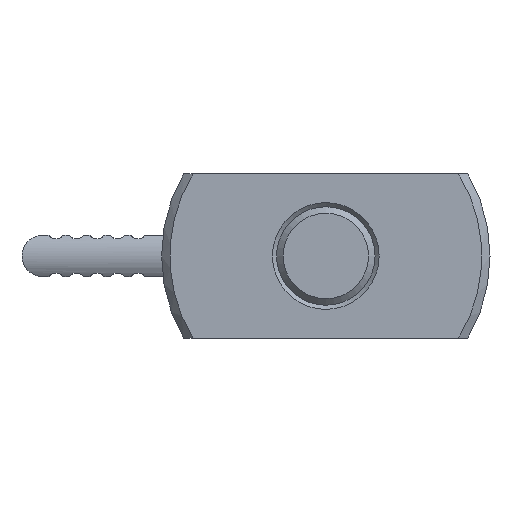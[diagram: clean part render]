
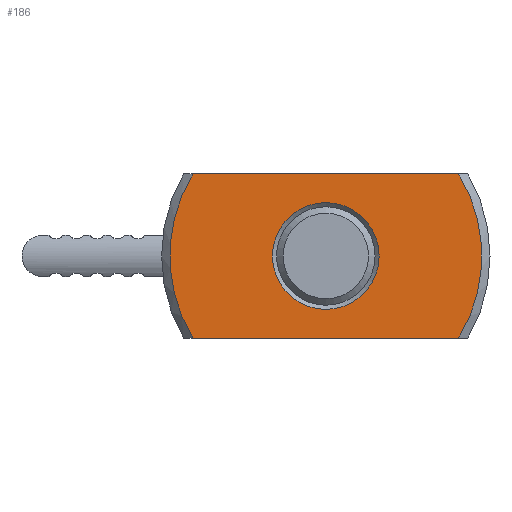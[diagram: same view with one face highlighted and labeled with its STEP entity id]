
A CAD part, front view. The second image highlights one B-rep face of the part: STEP entity #186.
In plain terms, the highlighted planar face has unit normal (0, -1, 0).
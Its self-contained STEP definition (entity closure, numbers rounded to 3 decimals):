
#186 = ADVANCED_FACE( '', ( #311, #312 ), #313, .F. );
#311 = FACE_BOUND( '', #550, .T. );
#312 = FACE_OUTER_BOUND( '', #551, .T. );
#313 = PLANE( '', #552 );
#550 = EDGE_LOOP( '', ( #893 ) );
#551 = EDGE_LOOP( '', ( #894, #895, #896, #897 ) );
#552 = AXIS2_PLACEMENT_3D( '', #898, #899, #900 );
#893 = ORIENTED_EDGE( '', *, *, #1583, .F. );
#894 = ORIENTED_EDGE( '', *, *, #1573, .T. );
#895 = ORIENTED_EDGE( '', *, *, #1569, .T. );
#896 = ORIENTED_EDGE( '', *, *, #1562, .T. );
#897 = ORIENTED_EDGE( '', *, *, #1584, .T. );
#898 = CARTESIAN_POINT( '', ( 19., 0., 0. ) );
#899 = DIRECTION( '', ( 0., 1., 0. ) );
#900 = DIRECTION( '', ( 0., 0., 1. ) );
#1562 = EDGE_CURVE( '', #1825, #1826, #1827, .T. );
#1569 = EDGE_CURVE( '', #1838, #1825, #1839, .T. );
#1573 = EDGE_CURVE( '', #1845, #1838, #1846, .T. );
#1583 = EDGE_CURVE( '', #1859, #1859, #1860, .T. );
#1584 = EDGE_CURVE( '', #1826, #1845, #1861, .T. );
#1825 = VERTEX_POINT( '', #2453 );
#1826 = VERTEX_POINT( '', #2454 );
#1827 = CIRCLE( '', #2455, 19. );
#1838 = VERTEX_POINT( '', #2473 );
#1839 = LINE( '', #2474, #2475 );
#1845 = VERTEX_POINT( '', #2485 );
#1846 = CIRCLE( '', #2486, 19. );
#1859 = VERTEX_POINT( '', #2529 );
#1860 = CIRCLE( '', #2530, 6.5 );
#1861 = LINE( '', #2531, #2532 );
#2453 = CARTESIAN_POINT( '', ( 16.155, 0., -10. ) );
#2454 = CARTESIAN_POINT( '', ( 16.155, 0., 10. ) );
#2455 = AXIS2_PLACEMENT_3D( '', #3025, #3026, #3027 );
#2473 = CARTESIAN_POINT( '', ( -16.155, 0., -10. ) );
#2474 = CARTESIAN_POINT( '', ( 19., 0., -10. ) );
#2475 = VECTOR( '', #3038, 1000. );
#2485 = CARTESIAN_POINT( '', ( -16.155, 0., 10. ) );
#2486 = AXIS2_PLACEMENT_3D( '', #3043, #3044, #3045 );
#2529 = CARTESIAN_POINT( '', ( 0., 0., -6.5 ) );
#2530 = AXIS2_PLACEMENT_3D( '', #3057, #3058, #3059 );
#2531 = CARTESIAN_POINT( '', ( 19., 0., 10. ) );
#2532 = VECTOR( '', #3060, 1000. );
#3025 = CARTESIAN_POINT( '', ( 0., 0., 0. ) );
#3026 = DIRECTION( '', ( 0., -1., 0. ) );
#3027 = DIRECTION( '', ( 0., 0., -1. ) );
#3038 = DIRECTION( '', ( 1., 0., 0. ) );
#3043 = CARTESIAN_POINT( '', ( 0., 0., 0. ) );
#3044 = DIRECTION( '', ( 0., -1., 0. ) );
#3045 = DIRECTION( '', ( 0., 0., -1. ) );
#3057 = CARTESIAN_POINT( '', ( 0., 0., 0. ) );
#3058 = DIRECTION( '', ( 0., -1., 0. ) );
#3059 = DIRECTION( '', ( 0., 0., -1. ) );
#3060 = DIRECTION( '', ( -1., 0., 0. ) );
